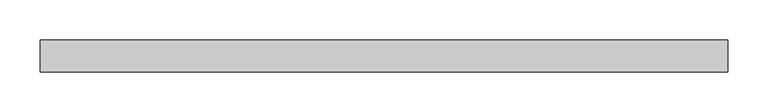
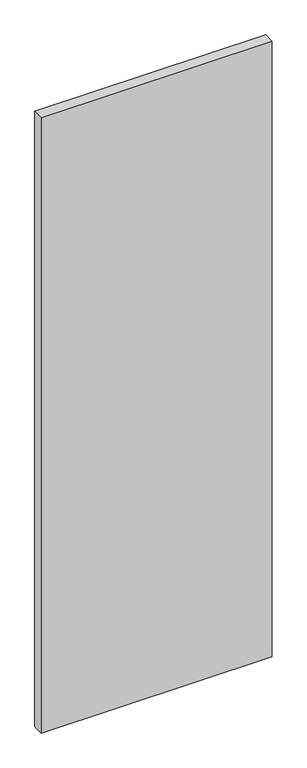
"""IFC4 building model written with IfcOpenShell, lengths in millimetres: plate geometry, Vitré."""

from ifc_helpers import new_model, si_unit, origin, origin_with_axes, place, context, project, spatial, polyline, outline, extrude, source, transform, mapped, element, save


def plate_2e10335c(model_context):
    return source(origin(), model_context, "Body", "SweptSolid", [
        extrude(outline(polyline([(-429.4062502, -20.0), (-429.4062502, 20.0), (429.4062502, 20.0), (429.4062502, -20.0), (-429.4062502, -20.0)])), origin_with_axes(), (0.0, 0.0, 1.0), 2417.625),
    ])


if __name__ == "__main__":
    model = new_model("IFC4")
    model_context = context("Model", 3, world=origin())
    ifc_project = project(units=[si_unit("LENGTHUNIT", "METRE", prefix="MILLI")], contexts=[model_context])
    site = spatial("IfcSite", under=ifc_project)
    building = spatial("IfcBuilding", under=site)
    placement = place(None, origin())
    plate_shape = plate_2e10335c(model_context)
    element("IfcPlate", 1, ObjectType="Vitré", at=placement, inside=building, context=model_context, shape_type="MappedRepresentation", body=[
        mapped(plate_shape, transform((0.0, 0.0, 0.0), x_axis=(1.0, 0.0, 0.0), y_axis=(0.0, 1.0, 0.0), z_axis=(0.0, 0.0, 1.0))),
    ])
    save(model, "model.ifc")
